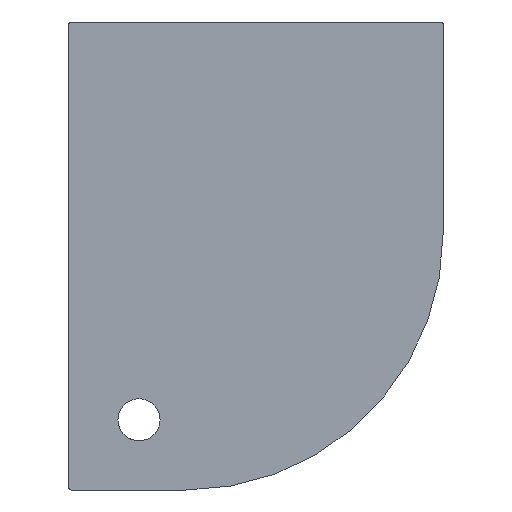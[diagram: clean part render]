
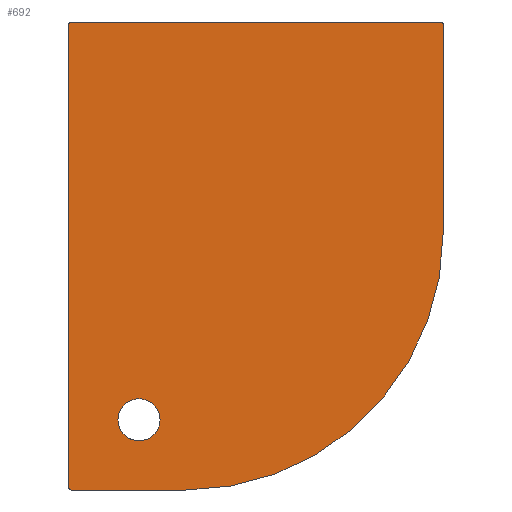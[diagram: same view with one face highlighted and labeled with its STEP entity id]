
A CAD part, front view. The second image highlights one B-rep face of the part: STEP entity #692.
In plain terms, the highlighted planar face has unit normal (0, -1, 0).
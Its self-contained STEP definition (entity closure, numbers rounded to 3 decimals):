
#36=FACE_BOUND('',#228,.T.);
#41=PLANE('',#770);
#70=LINE('',#1126,#115);
#72=LINE('',#1132,#117);
#73=LINE('',#1134,#118);
#74=LINE('',#1135,#119);
#115=VECTOR('',#904,10.);
#117=VECTOR('',#912,10.);
#118=VECTOR('',#915,10.);
#119=VECTOR('',#916,10.);
#180=FACE_OUTER_BOUND('',#227,.T.);
#227=EDGE_LOOP('',(#522,#523,#524,#525,#526,#527,#528,#529));
#228=EDGE_LOOP('',(#530));
#266=CIRCLE('',#744,5.);
#270=CIRCLE('',#750,5.);
#274=CIRCLE('',#757,5.);
#279=CIRCLE('',#768,550.);
#280=CIRCLE('',#771,45.);
#310=VERTEX_POINT('',#1071);
#311=VERTEX_POINT('',#1072);
#315=VERTEX_POINT('',#1084);
#316=VERTEX_POINT('',#1085);
#320=VERTEX_POINT('',#1100);
#321=VERTEX_POINT('',#1101);
#326=VERTEX_POINT('',#1124);
#327=VERTEX_POINT('',#1128);
#328=VERTEX_POINT('',#1136);
#369=EDGE_CURVE('',#310,#311,#266,.T.);
#375=EDGE_CURVE('',#315,#316,#270,.T.);
#383=EDGE_CURVE('',#320,#321,#274,.T.);
#397=EDGE_CURVE('',#315,#326,#70,.T.);
#399=EDGE_CURVE('',#327,#326,#279,.T.);
#400=EDGE_CURVE('',#327,#321,#72,.T.);
#401=EDGE_CURVE('',#320,#311,#73,.T.);
#402=EDGE_CURVE('',#310,#316,#74,.T.);
#403=EDGE_CURVE('',#328,#328,#280,.T.);
#522=ORIENTED_EDGE('',*,*,#375,.F.);
#523=ORIENTED_EDGE('',*,*,#397,.T.);
#524=ORIENTED_EDGE('',*,*,#399,.F.);
#525=ORIENTED_EDGE('',*,*,#400,.T.);
#526=ORIENTED_EDGE('',*,*,#383,.F.);
#527=ORIENTED_EDGE('',*,*,#401,.T.);
#528=ORIENTED_EDGE('',*,*,#369,.F.);
#529=ORIENTED_EDGE('',*,*,#402,.T.);
#530=ORIENTED_EDGE('',*,*,#403,.T.);
#692=ADVANCED_FACE('',(#180,#36),#41,.F.);
#744=AXIS2_PLACEMENT_3D('',#1073,#843,#844);
#750=AXIS2_PLACEMENT_3D('',#1086,#857,#858);
#757=AXIS2_PLACEMENT_3D('',#1102,#875,#876);
#768=AXIS2_PLACEMENT_3D('',#1130,#908,#909);
#770=AXIS2_PLACEMENT_3D('',#1133,#913,#914);
#771=AXIS2_PLACEMENT_3D('',#1137,#917,#918);
#843=DIRECTION('center_axis',(0.,1.,0.));
#844=DIRECTION('ref_axis',(-0.707,0.,0.707));
#857=DIRECTION('center_axis',(0.,1.,0.));
#858=DIRECTION('ref_axis',(-0.707,0.,-0.707));
#875=DIRECTION('center_axis',(0.,1.,0.));
#876=DIRECTION('ref_axis',(0.707,0.,0.707));
#904=DIRECTION('',(1.,0.,0.));
#908=DIRECTION('center_axis',(0.,1.,0.));
#909=DIRECTION('ref_axis',(1.,0.,0.));
#912=DIRECTION('',(0.,0.,1.));
#913=DIRECTION('center_axis',(0.,1.,0.));
#914=DIRECTION('ref_axis',(0.,0.,-1.));
#915=DIRECTION('',(-1.,0.,0.));
#916=DIRECTION('',(0.,0.,-1.));
#917=DIRECTION('center_axis',(0.,1.,0.));
#918=DIRECTION('ref_axis',(0.,0.,1.));
#1071=CARTESIAN_POINT('',(-400.,0.,495.));
#1072=CARTESIAN_POINT('',(-395.,0.,500.));
#1073=CARTESIAN_POINT('Origin',(-395.,0.,495.));
#1084=CARTESIAN_POINT('',(-395.,0.,-500.));
#1085=CARTESIAN_POINT('',(-400.,0.,-495.));
#1086=CARTESIAN_POINT('Origin',(-395.,0.,-495.));
#1100=CARTESIAN_POINT('',(395.,0.,500.));
#1101=CARTESIAN_POINT('',(400.,0.,495.));
#1102=CARTESIAN_POINT('Origin',(395.,0.,495.));
#1124=CARTESIAN_POINT('',(-150.,0.,-500.));
#1126=CARTESIAN_POINT('',(-400.,0.,-500.));
#1128=CARTESIAN_POINT('',(400.,0.,50.));
#1130=CARTESIAN_POINT('Origin',(-150.,0.,50.));
#1132=CARTESIAN_POINT('',(400.,0.,50.));
#1133=CARTESIAN_POINT('Origin',(0.,0.,0.));
#1134=CARTESIAN_POINT('',(400.,0.,500.));
#1135=CARTESIAN_POINT('',(-400.,0.,500.));
#1136=CARTESIAN_POINT('',(-250.,0.,-395.));
#1137=CARTESIAN_POINT('Origin',(-250.,0.,-350.));
